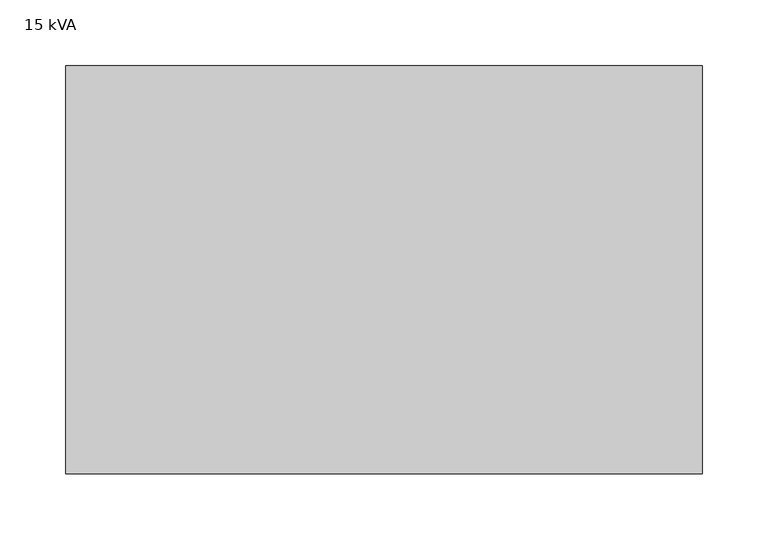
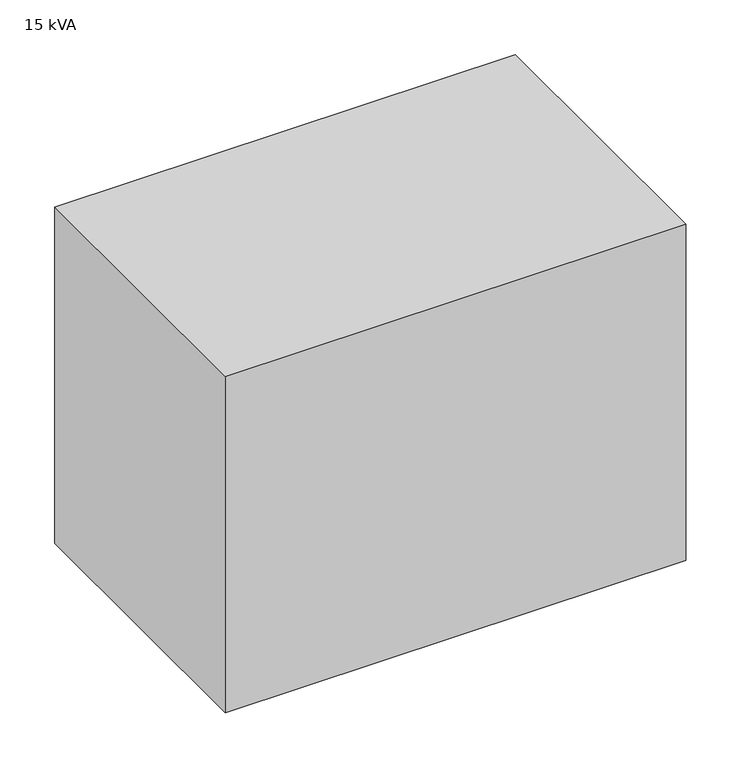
"""IFC4 building model written with IfcOpenShell, lengths in millimetres: proxy geometry, Dry Type Transformer - 480-208Y120 - NEMA Type 3R : 15 kVA."""

from ifc_helpers import new_model, si_unit, origin, origin_with_axes, place, context, project, spatial, polyline, outline, extrude, source, transform, mapped, element, save


def proxy_15_kva_662d63cf(model_context):
    return source(origin(), model_context, "Body", "SweptSolid", [
        extrude(outline(polyline([(242.5898438, -155.575), (-242.5898437, -155.575), (-242.5898437, 155.575), (242.5898438, 155.575), (242.5898438, -155.575)])), origin_with_axes(), (0.0, 0.0, 1.0), 374.65),
    ])


if __name__ == "__main__":
    model = new_model("IFC4")
    model_context = context("Model", 3, world=origin())
    ifc_project = project(units=[si_unit("LENGTHUNIT", "METRE", prefix="MILLI")], contexts=[model_context])
    site = spatial("IfcSite", under=ifc_project)
    building = spatial("IfcBuilding", under=site)
    placement = place(None, origin())
    proxy_15_kva_shape = proxy_15_kva_662d63cf(model_context)
    element("IfcBuildingElementProxy", 1, Name="Dry Type Transformer - 480-208Y120 - NEMA Type 3R : 15 kVA", ObjectType="Dry Type Transformer - 480-208Y120 - NEMA Type 3R : 15 kVA", at=placement, inside=building, context=model_context, shape_type="MappedRepresentation", body=[
        mapped(proxy_15_kva_shape, transform((0.0, 0.0, 0.0), x_axis=(1.0, 0.0, 0.0), y_axis=(0.0, 1.0, 0.0), z_axis=(0.0, 0.0, 1.0))),
    ])
    save(model, "model.ifc")
